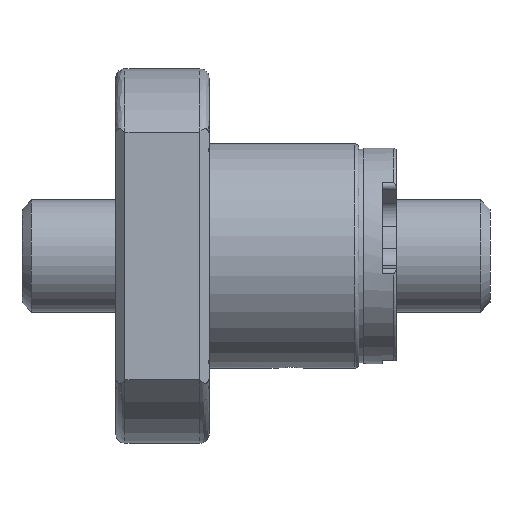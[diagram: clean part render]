
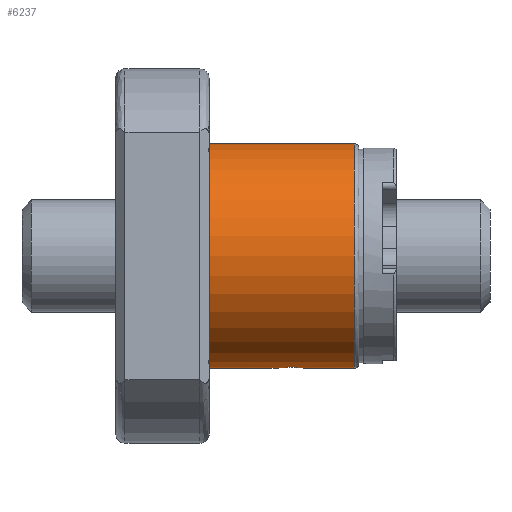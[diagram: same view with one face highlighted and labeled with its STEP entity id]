
A CAD part, front view. The second image highlights one B-rep face of the part: STEP entity #6237.
In plain terms, the highlighted cylindrical face has radius 12 mm (diameter 24 mm), a partial arc.
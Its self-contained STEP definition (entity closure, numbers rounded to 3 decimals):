
#12 = CARTESIAN_POINT ( 'NONE',  ( 18.855, -1.46, -11.911 ) ) ;
#29 = EDGE_LOOP ( 'NONE', ( #6509, #1452, #6005, #2362, #6026, #6801, #6337 ) ) ;
#42 = CARTESIAN_POINT ( 'NONE',  ( 19.25, -1.5, -11.906 ) ) ;
#71 = CARTESIAN_POINT ( 'NONE',  ( 17.75, 0., -12. ) ) ;
#245 = CARTESIAN_POINT ( 'NONE',  ( 26., 0., 12. ) ) ;
#577 = DIRECTION ( 'NONE',  ( 1., 0., 0. ) ) ;
#656 = CARTESIAN_POINT ( 'NONE',  ( 17.76, -0.197, -11.999 ) ) ;
#1139 = CARTESIAN_POINT ( 'NONE',  ( 19.349, -1.5, -11.906 ) ) ;
#1186 = EDGE_CURVE ( 'NONE', #6649, #5333, #6148, .T. ) ;
#1192 = CARTESIAN_POINT ( 'NONE',  ( 0., 0., 0. ) ) ;
#1216 = DIRECTION ( 'NONE',  ( -1., 0., 0. ) ) ;
#1258 = CARTESIAN_POINT ( 'NONE',  ( 20.75, 0., -12. ) ) ;
#1354 = CARTESIAN_POINT ( 'NONE',  ( 20.75, -0.198, -12. ) ) ;
#1377 = CARTESIAN_POINT ( 'NONE',  ( 19.052, -1.5, -11.906 ) ) ;
#1452 = ORIENTED_EDGE ( 'NONE', *, *, #1547, .T. ) ;
#1547 = EDGE_CURVE ( 'NONE', #7650, #7655, #5997, .T. ) ;
#1815 = VERTEX_POINT ( 'NONE', #6384 ) ;
#1940 = CARTESIAN_POINT ( 'NONE',  ( 20.164, -1.193, -11.941 ) ) ;
#2000 = CARTESIAN_POINT ( 'NONE',  ( 19.915, -1.348, -11.924 ) ) ;
#2145 = CARTESIAN_POINT ( 'NONE',  ( 0., 0., 12. ) ) ;
#2164 = VECTOR ( 'NONE', #6819, 1000. ) ;
#2362 = ORIENTED_EDGE ( 'NONE', *, *, #8582, .T. ) ;
#2376 = CARTESIAN_POINT ( 'NONE',  ( 17.75, 0., -12. ) ) ;
#2516 = CARTESIAN_POINT ( 'NONE',  ( 19.447, -1.49, -11.907 ) ) ;
#2803 = VERTEX_POINT ( 'NONE', #5630 ) ;
#3279 = CARTESIAN_POINT ( 'NONE',  ( 26., 0., 0. ) ) ;
#3307 = DIRECTION ( 'NONE',  ( -1., 0., 0. ) ) ;
#3325 = CARTESIAN_POINT ( 'NONE',  ( 20.71, -0.395, -11.995 ) ) ;
#3346 = CARTESIAN_POINT ( 'NONE',  ( 17.75, -0.099, -12. ) ) ;
#3354 = CARTESIAN_POINT ( 'NONE',  ( 19.638, -1.452, -11.912 ) ) ;
#3462 = AXIS2_PLACEMENT_3D ( 'NONE', #3279, #3307, #5874 ) ;
#3558 = B_SPLINE_CURVE_WITH_KNOTS ( 'NONE', 3,
 ( #7847, #1139, #2516, #3354, #8022, #2000, #3969, #1940, #6020, #6710, #7317, #3325, #1354, #1258 ),
 .UNSPECIFIED., .F., .F.,
 ( 4, 2, 2, 2, 2, 2, 4 ),
 ( 0.007, 0.007, 0.008, 0.008, 0.008, 0.009, 0.009 ),
 .UNSPECIFIED. ) ;
#3815 = AXIS2_PLACEMENT_3D ( 'NONE', #1192, #1216, #8615 ) ;
#3969 = CARTESIAN_POINT ( 'NONE',  ( 20.001, -1.302, -11.929 ) ) ;
#4074 = CARTESIAN_POINT ( 'NONE',  ( 18.057, -0.914, -11.965 ) ) ;
#4139 = CARTESIAN_POINT ( 'NONE',  ( 0., 0., -12. ) ) ;
#4490 = DIRECTION ( 'NONE',  ( -1., 0., 0. ) ) ;
#4519 = CIRCLE ( 'NONE', #8446, 12. ) ;
#4700 = DIRECTION ( 'NONE',  ( -1., 0., 0. ) ) ;
#4908 = EDGE_CURVE ( 'NONE', #6649, #6282, #7509, .T. ) ;
#4965 = CARTESIAN_POINT ( 'NONE',  ( 26., 0., -12. ) ) ;
#5097 = LINE ( 'NONE', #2145, #2164 ) ;
#5191 = CARTESIAN_POINT ( 'NONE',  ( 0., 0., -12. ) ) ;
#5198 = CYLINDRICAL_SURFACE ( 'NONE', #3815, 12. ) ;
#5333 = VERTEX_POINT ( 'NONE', #7365 ) ;
#5357 = CARTESIAN_POINT ( 'NONE',  ( 17.948, -0.751, -11.977 ) ) ;
#5403 = VECTOR ( 'NONE', #4490, 1000. ) ;
#5630 = CARTESIAN_POINT ( 'NONE',  ( 10.5, 0., 12. ) ) ;
#5686 = EDGE_CURVE ( 'NONE', #5333, #1815, #3558, .T. ) ;
#5874 = DIRECTION ( 'NONE',  ( 0., 0., 1. ) ) ;
#5997 = CIRCLE ( 'NONE', #3462, 12. ) ;
#6005 = ORIENTED_EDGE ( 'NONE', *, *, #6473, .T. ) ;
#6020 = CARTESIAN_POINT ( 'NONE',  ( 20.241, -1.13, -11.947 ) ) ;
#6026 = ORIENTED_EDGE ( 'NONE', *, *, #4908, .F. ) ;
#6038 = CARTESIAN_POINT ( 'NONE',  ( 18.12, -0.991, -11.959 ) ) ;
#6091 = CARTESIAN_POINT ( 'NONE',  ( 17.827, -0.484, -11.991 ) ) ;
#6120 = CARTESIAN_POINT ( 'NONE',  ( 17.902, -0.665, -11.982 ) ) ;
#6148 = B_SPLINE_CURVE_WITH_KNOTS ( 'NONE', 3,
 ( #71, #3346, #656, #8102, #6091, #6120, #5357, #4074, #6038, #8070, #6703, #12, #1377, #42 ),
 .UNSPECIFIED., .F., .F.,
 ( 4, 2, 2, 2, 2, 2, 4 ),
 ( 0.005, 0.005, 0.005, 0.006, 0.006, 0.006, 0.007 ),
 .UNSPECIFIED. ) ;
#6215 = EDGE_CURVE ( 'NONE', #7650, #1815, #6444, .T. ) ;
#6237 = ADVANCED_FACE ( 'NONE', ( #7393 ), #5198, .T. ) ;
#6282 = VERTEX_POINT ( 'NONE', #7403 ) ;
#6337 = ORIENTED_EDGE ( 'NONE', *, *, #5686, .T. ) ;
#6384 = CARTESIAN_POINT ( 'NONE',  ( 20.75, 0., -12. ) ) ;
#6444 = LINE ( 'NONE', #5191, #5403 ) ;
#6473 = EDGE_CURVE ( 'NONE', #7655, #2803, #5097, .T. ) ;
#6509 = ORIENTED_EDGE ( 'NONE', *, *, #6215, .F. ) ;
#6649 = VERTEX_POINT ( 'NONE', #2376 ) ;
#6703 = CARTESIAN_POINT ( 'NONE',  ( 18.494, -1.31, -11.928 ) ) ;
#6710 = CARTESIAN_POINT ( 'NONE',  ( 20.449, -0.923, -11.965 ) ) ;
#6801 = ORIENTED_EDGE ( 'NONE', *, *, #1186, .T. ) ;
#6819 = DIRECTION ( 'NONE',  ( -1., 0., 0. ) ) ;
#7175 = DIRECTION ( 'NONE',  ( 0., 0., 1. ) ) ;
#7317 = CARTESIAN_POINT ( 'NONE',  ( 20.56, -0.756, -11.978 ) ) ;
#7365 = CARTESIAN_POINT ( 'NONE',  ( 19.25, -1.5, -11.906 ) ) ;
#7393 = FACE_OUTER_BOUND ( 'NONE', #29, .T. ) ;
#7398 = VECTOR ( 'NONE', #4700, 1000. ) ;
#7403 = CARTESIAN_POINT ( 'NONE',  ( 10.5, 0., -12. ) ) ;
#7509 = LINE ( 'NONE', #4139, #7398 ) ;
#7650 = VERTEX_POINT ( 'NONE', #4965 ) ;
#7655 = VERTEX_POINT ( 'NONE', #245 ) ;
#7847 = CARTESIAN_POINT ( 'NONE',  ( 19.25, -1.5, -11.906 ) ) ;
#8022 = CARTESIAN_POINT ( 'NONE',  ( 19.734, -1.423, -11.915 ) ) ;
#8070 = CARTESIAN_POINT ( 'NONE',  ( 18.327, -1.199, -11.941 ) ) ;
#8102 = CARTESIAN_POINT ( 'NONE',  ( 17.798, -0.388, -11.994 ) ) ;
#8446 = AXIS2_PLACEMENT_3D ( 'NONE', #8601, #577, #7175 ) ;
#8582 = EDGE_CURVE ( 'NONE', #2803, #6282, #4519, .T. ) ;
#8601 = CARTESIAN_POINT ( 'NONE',  ( 10.5, 0., 0. ) ) ;
#8615 = DIRECTION ( 'NONE',  ( 0., 0., 1. ) ) ;
